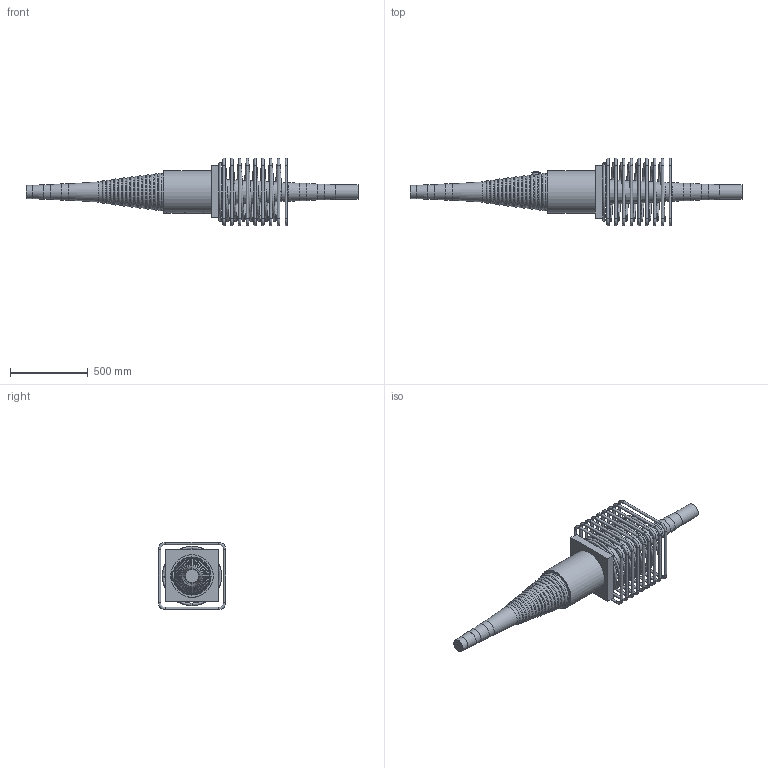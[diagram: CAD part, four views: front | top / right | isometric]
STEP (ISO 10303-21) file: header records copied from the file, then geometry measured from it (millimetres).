
FILE_DESCRIPTION(/* description */ (''),/* implementation_level */ '2;1');
FILE_NAME(/* name */ 'Z:\04 Publications\05 Give-out\BBR\6_3D_Models\BBR VT CONA CMI\BBR VT CONA CMI SP\01906\BBR VT CONA CMI SP 1906_Coupler H Assembly_CS-34,28.stp',/* time_stamp */ '2017-05-05T15:51:32+02:00',/* author */ ('IP'),/* organization */ (''),/* preprocessor_version */ 'ST-DEVELOPER v16.1',/* originating_system */ 'Autodesk Inventor 2016',/* authorisation */ '');
FILE_SCHEMA (('AUTOMOTIVE_DESIGN { 1 0 10303 214 3 1 1 }'));
Length unit declared in the file: millimetre
Products named in the file (1): BBR VT CONA CMI SP 1906_Coupler H Assembly_CS-34,28
Bounding box: 2134 x 435 x 435 mm (x, y, z)
Volume: 54795344.7 mm3; surface area: 2482165.4 mm2
Topology: 11 solids, 11 shells, 898 faces, 2324 edges, 1489 vertices
Faces by surface type: bspline 381, plane 297, cylinder 110, torus 93, cone 17
Full cylindrical faces by diameter (mm): 16 x36, 34 x1, 57 x1, 84 x1, 91.725 x1, 94 x1, 101.793 x1, 104 x1, 111.862 x1, 121.932 x1, 273 x1
Entity records: 37339 total; most frequent: CARTESIAN_POINT 17992, ORIENTED_EDGE 4330, DIRECTION 2921, EDGE_CURVE 2162, VERTEX_POINT 1484, EDGE_LOOP 1119, AXIS2_PLACEMENT_3D 1004, LINE 913
